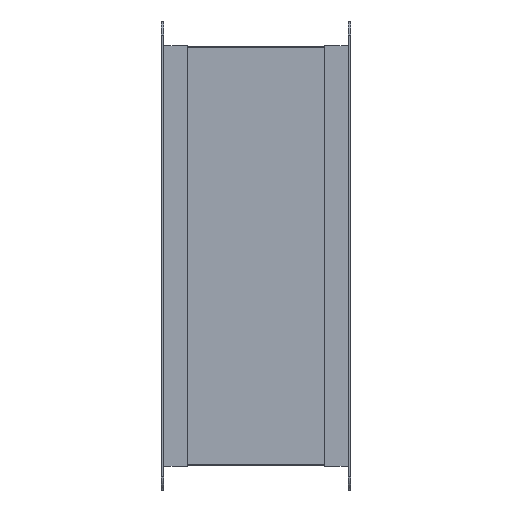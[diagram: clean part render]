
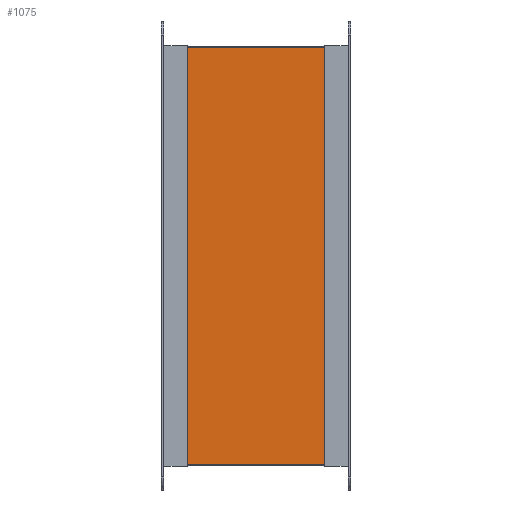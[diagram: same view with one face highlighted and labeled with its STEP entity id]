
A CAD part, left-side view. The second image highlights one B-rep face of the part: STEP entity #1075.
In plain terms, the highlighted planar face has unit normal (-1, 0, 0).
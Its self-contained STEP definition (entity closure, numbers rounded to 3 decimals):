
#63=PLANE('',#1187);
#119=FACE_OUTER_BOUND('',#185,.T.);
#185=EDGE_LOOP('',(#887,#888,#889,#890));
#281=LINE('',#1703,#393);
#290=LINE('',#1721,#402);
#291=LINE('',#1723,#403);
#292=LINE('',#1724,#404);
#393=VECTOR('',#1401,10.);
#402=VECTOR('',#1418,10.);
#403=VECTOR('',#1419,10.);
#404=VECTOR('',#1420,10.);
#550=VERTEX_POINT('',#1697);
#552=VERTEX_POINT('',#1701);
#557=VERTEX_POINT('',#1720);
#558=VERTEX_POINT('',#1722);
#677=EDGE_CURVE('',#552,#550,#281,.T.);
#686=EDGE_CURVE('',#550,#557,#290,.T.);
#687=EDGE_CURVE('',#558,#552,#291,.T.);
#688=EDGE_CURVE('',#557,#558,#292,.T.);
#887=ORIENTED_EDGE('',*,*,#686,.F.);
#888=ORIENTED_EDGE('',*,*,#677,.F.);
#889=ORIENTED_EDGE('',*,*,#687,.F.);
#890=ORIENTED_EDGE('',*,*,#688,.F.);
#1075=ADVANCED_FACE('',(#119),#63,.T.);
#1187=AXIS2_PLACEMENT_3D('',#1719,#1416,#1417);
#1401=DIRECTION('',(0.,-1.,0.));
#1416=DIRECTION('center_axis',(-1.,0.,0.));
#1417=DIRECTION('ref_axis',(0.,0.,1.));
#1418=DIRECTION('',(0.,0.,-1.));
#1419=DIRECTION('',(0.,0.,1.));
#1420=DIRECTION('',(0.,1.,0.));
#1697=CARTESIAN_POINT('',(-180.5,-52.5,160.5));
#1701=CARTESIAN_POINT('',(-180.5,52.5,160.5));
#1703=CARTESIAN_POINT('',(-180.5,0.,160.5));
#1719=CARTESIAN_POINT('Origin',(-180.5,0.,-160.5));
#1720=CARTESIAN_POINT('',(-180.5,-52.5,-160.5));
#1721=CARTESIAN_POINT('',(-180.5,-52.5,9.25));
#1722=CARTESIAN_POINT('',(-180.5,52.5,-160.5));
#1723=CARTESIAN_POINT('',(-180.5,52.5,-169.75));
#1724=CARTESIAN_POINT('',(-180.5,0.,-160.5));
